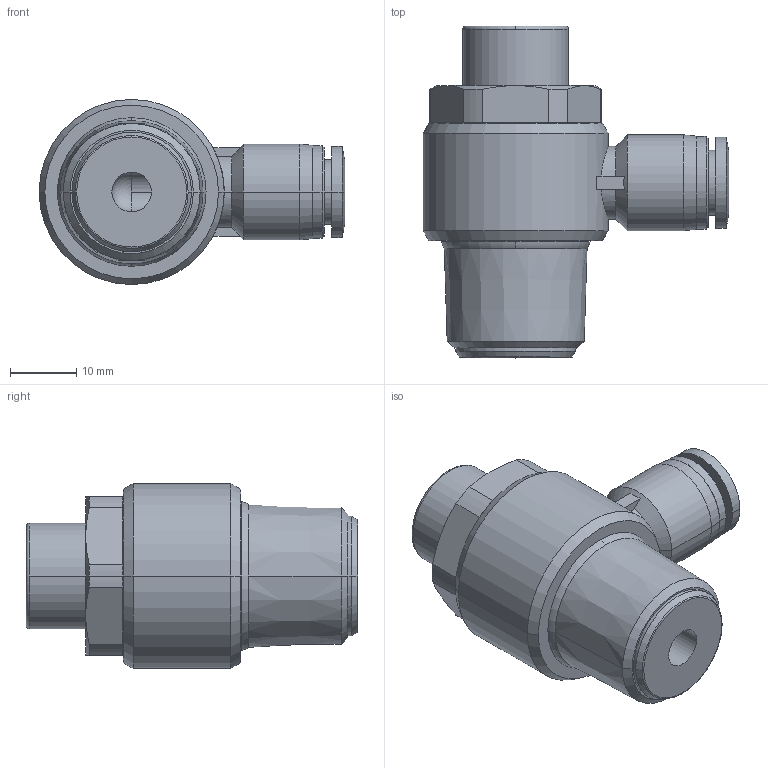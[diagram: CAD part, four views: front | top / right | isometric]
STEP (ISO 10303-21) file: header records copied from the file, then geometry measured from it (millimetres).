
FILE_DESCRIPTION (( 'STEP AP203' ), '1' );
FILE_NAME ('SCLF08-04.STEP', '2020-05-13T17:31:53', ( '' ), ( '' ), 'SwSTEP 2.0', 'SolidWorks 2019', '' );
FILE_SCHEMA (( 'CONFIG_CONTROL_DESIGN' ));
Length unit declared in the file: millimetre
Products named in the file (1): SCLF08-04
Bounding box: 46.25 x 50.2 x 28 mm (x, y, z)
Volume: 21580.6 mm3; surface area: 7605.4 mm2
Topology: 1 solids, 1 shells, 135 faces, 322 edges, 197 vertices
Faces by surface type: plane 51, cylinder 43, cone 32, torus 6, bspline 2, sphere 1
Entity records: 4115 total; most frequent: CARTESIAN_POINT 890, DIRECTION 710, ORIENTED_EDGE 638, EDGE_CURVE 319, AXIS2_PLACEMENT_3D 287, VERTEX_POINT 197, CIRCLE 153, EDGE_LOOP 148
